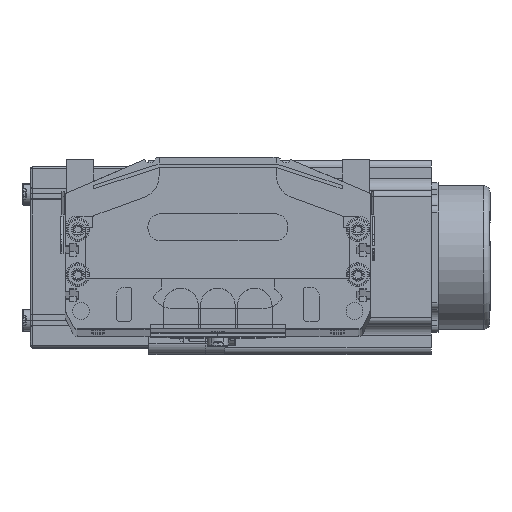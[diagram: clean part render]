
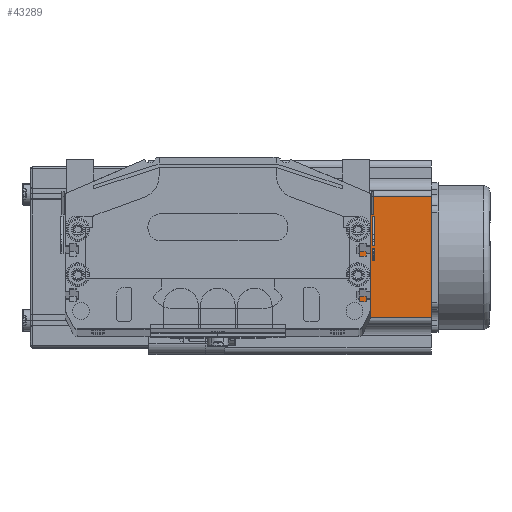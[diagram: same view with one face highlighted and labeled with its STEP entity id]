
A CAD part, top view. The second image highlights one B-rep face of the part: STEP entity #43289.
In plain terms, the highlighted planar face has unit normal (0, 0, 1) as drawn and (-1, 0, 0) by its records, which use the part's own axes.
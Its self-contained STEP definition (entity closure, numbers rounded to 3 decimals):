
#43051 = EDGE_LOOP ( 'NONE', ( #43216, #43139, #43292, #43194 ) ) ;
#43052 = VERTEX_POINT ( 'NONE', #46317 ) ;
#43053 = VERTEX_POINT ( 'NONE', #46248 ) ;
#43138 = VERTEX_POINT ( 'NONE', #46438 ) ;
#43139 = ORIENTED_EDGE ( 'NONE', *, *, #43218, .T. ) ;
#43140 = EDGE_CURVE ( 'NONE', #43294, #43138, #46429, .T. ) ;
#43194 = ORIENTED_EDGE ( 'NONE', *, *, #43217, .T. ) ;
#43208 = EDGE_CURVE ( 'NONE', #43052, #43053, #46819, .T. ) ;
#43216 = ORIENTED_EDGE ( 'NONE', *, *, #43208, .T. ) ;
#43217 = EDGE_CURVE ( 'NONE', #43294, #43052, #46767, .T. ) ;
#43218 = EDGE_CURVE ( 'NONE', #43053, #43138, #46808, .T. ) ;
#43289 = ADVANCED_FACE ( 'NONE', ( #47224 ), #47127, .F. ) ;
#43292 = ORIENTED_EDGE ( 'NONE', *, *, #43140, .F. ) ;
#43294 = VERTEX_POINT ( 'NONE', #46979 ) ;
#46248 = CARTESIAN_POINT ( 'NONE',  ( 0., 16.16, 0. ) ) ;
#46317 = CARTESIAN_POINT ( 'NONE',  ( 0., 69.74, 0. ) ) ;
#46429 = LINE ( 'NONE', #46526, #46525 ) ;
#46438 = CARTESIAN_POINT ( 'NONE',  ( 0., 16.16, 91.5 ) ) ;
#46524 = DIRECTION ( 'NONE',  ( 0., -1., 0. ) ) ;
#46525 = VECTOR ( 'NONE', #46524, 1000. ) ;
#46526 = CARTESIAN_POINT ( 'NONE',  ( 0., 0., 91.5 ) ) ;
#46767 = LINE ( 'NONE', #46807, #46806 ) ;
#46769 = DIRECTION ( 'NONE',  ( 0., -1., 0. ) ) ;
#46771 = VECTOR ( 'NONE', #46769, 1000. ) ;
#46802 = DIRECTION ( 'NONE',  ( 0., 0., 1. ) ) ;
#46803 = CARTESIAN_POINT ( 'NONE',  ( 0., 16.16, 91.5 ) ) ;
#46805 = DIRECTION ( 'NONE',  ( 0., 0., -1. ) ) ;
#46806 = VECTOR ( 'NONE', #46805, 1000. ) ;
#46807 = CARTESIAN_POINT ( 'NONE',  ( 0., 69.74, 91.5 ) ) ;
#46808 = LINE ( 'NONE', #46803, #46913 ) ;
#46818 = CARTESIAN_POINT ( 'NONE',  ( 0., 0., 0. ) ) ;
#46819 = LINE ( 'NONE', #46818, #46771 ) ;
#46913 = VECTOR ( 'NONE', #46802, 1000. ) ;
#46979 = CARTESIAN_POINT ( 'NONE',  ( 0., 69.74, 91.5 ) ) ;
#46994 = DIRECTION ( 'NONE',  ( 0., 0., -1. ) ) ;
#46995 = DIRECTION ( 'NONE',  ( 1., 0., 0. ) ) ;
#47092 = CARTESIAN_POINT ( 'NONE',  ( 0., 0., 91.5 ) ) ;
#47127 = PLANE ( 'NONE',  #47176 ) ;
#47176 = AXIS2_PLACEMENT_3D ( 'NONE', #47092, #46995, #46994 ) ;
#47224 = FACE_OUTER_BOUND ( 'NONE', #43051, .T. ) ;
